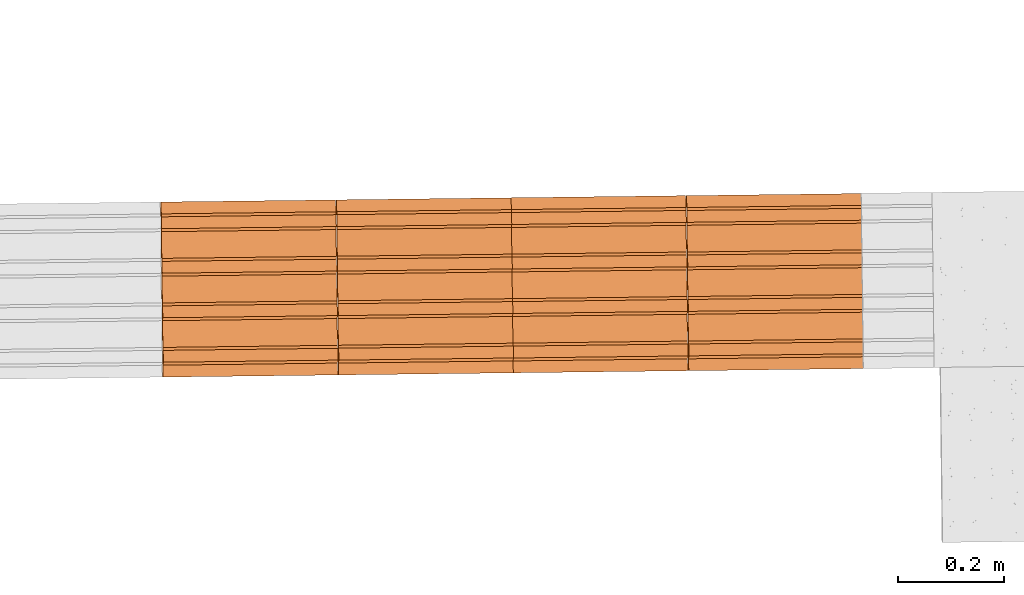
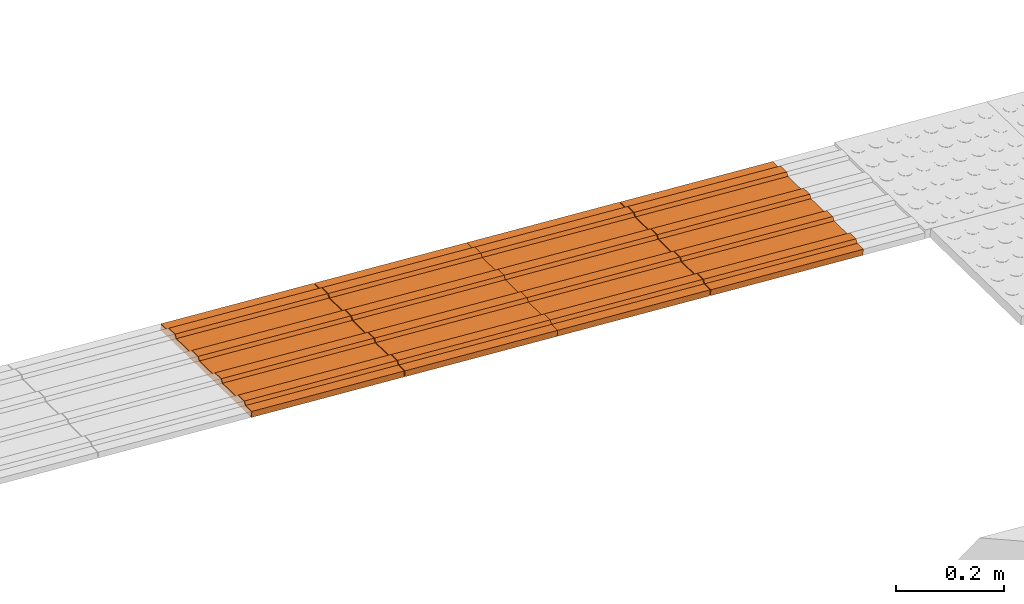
# One storey, part 202 of 237: 4 proxies.
"""IFC2X3 building model written with IfcOpenShell, lengths in millimetres."""

from ifc_helpers import new_model, entity, si_unit, converted_unit, derived_unit, money_unit, direction, frame, origin_with_axes, place, context, subcontext, project, spatial, open_shell, surface_model, source, transform, mapped, type_object, element, save


model = new_model("IFC2X3")

# Units and contexts
model_context = context("Model", 3, precision=0.01, world=origin_with_axes(), true_north=direction((0.0, 1.0)))
body_context = subcontext(model_context, "Body", "Model", "MODEL_VIEW")
ifc_project = project(units=[si_unit("LENGTHUNIT", "METRE", prefix="MILLI"), si_unit("AREAUNIT", "SQUARE_METRE"), si_unit("VOLUMEUNIT", "CUBIC_METRE"), converted_unit("PLANEANGLEUNIT", "DEGREE", entity("IfcPlaneAngleMeasure", 0.0174532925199), si_unit("PLANEANGLEUNIT", "RADIAN"), dimensions=[0, 0, 0, 0, 0, 0, 0]), money_unit("USD"), converted_unit("TIMEUNIT", "Year", entity("IfcTimeMeasure", 31556926.0), si_unit("TIMEUNIT", "SECOND"), dimensions=[0, 0, 1, 0, 0, 0, 0]), si_unit("MASSUNIT", "GRAM", prefix="KILO"), si_unit("THERMODYNAMICTEMPERATUREUNIT", "DEGREE_CELSIUS"), si_unit("LUMINOUSINTENSITYUNIT", "LUMEN"), si_unit("ENERGYUNIT", "JOULE", prefix="MEGA"), derived_unit("THERMALCONDUCTANCEUNIT", [(si_unit("POWERUNIT", "WATT"), 1), (si_unit("LENGTHUNIT", "METRE"), -1), (si_unit("THERMODYNAMICTEMPERATUREUNIT", "KELVIN"), -1)]), derived_unit("SPECIFICHEATCAPACITYUNIT", [(si_unit("ENERGYUNIT", "JOULE"), 1), (si_unit("MASSUNIT", "GRAM", prefix="KILO"), -1), (si_unit("THERMODYNAMICTEMPERATUREUNIT", "KELVIN"), -1)]), derived_unit("MASSDENSITYUNIT", [(si_unit("MASSUNIT", "GRAM", prefix="KILO"), 1), (si_unit("VOLUMEUNIT", "CUBIC_METRE"), -1)])], contexts=[model_context])

# Site, building, storey
site_placement = place(None, origin_with_axes())
site = spatial("IfcSite", under=ifc_project, at=site_placement, Name="Local", CompositionType="ELEMENT")
building_placement = place(site_placement, origin_with_axes())
building = spatial("IfcBuilding", under=site, at=building_placement, Name="Construção", CompositionType="ELEMENT")
storey_placement = place(building_placement, origin_with_axes())
storey = spatial("IfcBuildingStorey", under=building, at=storey_placement, Name="Pavimento Térreo", CompositionType="ELEMENT", Elevation=0.0)

# Proxies
building_element_proxy_type = type_object("IfcBuildingElementProxyType", Name="Piso Direcional 27", PredefinedType="NOTDEFINED")
shared_shape = source(origin_with_axes(), body_context, "Body", "SurfaceModel", [
    surface_model("IfcShellBasedSurfaceModel", [(-0.316074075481, -47.258225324, 4.01610191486), (328.666646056, -47.258225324, 29.907603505), (328.143585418, -41.665004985, 36.5537190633), (-0.839134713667, -41.665004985, 10.6622174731)], [open_shell([[[0, 1, 2, 3]]])]),
    surface_model("IfcShellBasedSurfaceModel", [(329.712767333, -153.529411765, 16.6153723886), (329.712767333, 176.470588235, 16.6153723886), (328.666646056, 176.470588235, 29.907603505), (328.666646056, 154.097706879, 29.907603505), (328.143585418, 148.50448654, 36.5537190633), (328.143585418, 126.131605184, 36.5537190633), (328.666646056, 120.538384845, 29.907603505), (328.666646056, 70.1994017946, 29.907603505), (328.143585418, 64.6061814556, 36.5537190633), (328.143585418, 42.2333000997, 36.5537190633), (328.666646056, 36.6400797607, 29.907603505), (328.666646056, -13.6989032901, 29.907603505), (328.143585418, -19.2921236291, 36.5537190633), (328.143585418, -41.665004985, 36.5537190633), (328.666646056, -47.258225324, 29.907603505), (328.666646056, -97.5972083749, 29.907603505), (328.143585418, -103.190428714, 36.5537190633), (328.143585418, -125.56331007, 36.5537190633), (328.666646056, -131.156530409, 29.907603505), (328.666646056, -153.529411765, 29.907603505)], [open_shell([[[0, 1, 2, 3, 4, 5, 6, 7, 8, 9, 10, 11, 12, 13, 14, 15, 16, 17, 18, 19]]])]),
    surface_model("IfcShellBasedSurfaceModel", [(-0.839134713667, -19.2921236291, 10.6622174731), (328.143585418, -19.2921236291, 36.5537190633), (328.666646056, -13.6989032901, 29.907603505), (-0.316074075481, -13.6989032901, 4.01610191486)], [open_shell([[[0, 1, 2, 3]]])]),
    surface_model("IfcShellBasedSurfaceModel", [(-0.839134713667, -103.190428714, 10.6622174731), (328.143585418, -103.190428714, 36.5537190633), (328.666646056, -97.5972083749, 29.907603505), (-0.316074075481, -97.5972083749, 4.01610191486)], [open_shell([[[0, 1, 2, 3]]])]),
    surface_model("IfcShellBasedSurfaceModel", [(-0.839134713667, 64.6061814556, 10.6622174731), (328.143585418, 64.6061814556, 36.5537190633), (328.666646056, 70.1994017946, 29.907603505), (-0.316074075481, 70.1994017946, 4.01610191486)], [open_shell([[[0, 1, 2, 3]]])]),
    surface_model("IfcShellBasedSurfaceModel", [(-0.316074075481, 36.6400797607, 4.01610191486), (328.666646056, 36.6400797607, 29.907603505), (328.143585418, 42.2333000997, 36.5537190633), (-0.839134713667, 42.2333000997, 10.6622174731)], [open_shell([[[0, 1, 2, 3]]])]),
    surface_model("IfcShellBasedSurfaceModel", [(-0.316074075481, -131.156530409, 4.01610191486), (328.666646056, -131.156530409, 29.907603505), (328.143585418, -125.56331007, 36.5537190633), (-0.839134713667, -125.56331007, 10.6622174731)], [open_shell([[[0, 1, 2, 3]]])]),
    surface_model("IfcShellBasedSurfaceModel", [(-0.316074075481, 176.470588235, 4.01610191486), (-0.316074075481, 154.097706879, 4.01610191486), (328.666646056, 154.097706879, 29.907603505), (328.666646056, 176.470588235, 29.907603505)], [open_shell([[[0, 1, 2, 3]]])]),
    surface_model("IfcShellBasedSurfaceModel", [(-0.316074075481, 120.538384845, 4.01610191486), (328.666646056, 120.538384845, 29.907603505), (328.143585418, 126.131605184, 36.5537190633), (-0.839134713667, 126.131605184, 10.6622174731)], [open_shell([[[0, 1, 2, 3]]])]),
    surface_model("IfcShellBasedSurfaceModel", [(-0.839134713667, 148.50448654, 10.6622174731), (328.143585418, 148.50448654, 36.5537190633), (328.666646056, 154.097706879, 29.907603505), (-0.316074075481, 154.097706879, 4.01610191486)], [open_shell([[[0, 1, 2, 3]]])]),
    surface_model("IfcShellBasedSurfaceModel", [(-0.316074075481, 36.6400797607, 4.01610191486), (-0.316074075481, -13.6989032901, 4.01610191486), (328.666646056, -13.6989032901, 29.907603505), (328.666646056, 36.6400797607, 29.907603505)], [open_shell([[[0, 1, 2, 3]]])]),
    surface_model("IfcShellBasedSurfaceModel", [(-0.316074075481, 120.538384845, 4.01610191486), (-0.316074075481, 70.1994017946, 4.01610191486), (328.666646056, 70.1994017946, 29.907603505), (328.666646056, 120.538384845, 29.907603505)], [open_shell([[[0, 1, 2, 3]]])]),
    surface_model("IfcShellBasedSurfaceModel", [(-0.839134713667, 148.50448654, 10.6622174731), (-0.839134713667, 126.131605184, 10.6622174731), (328.143585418, 126.131605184, 36.5537190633), (328.143585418, 148.50448654, 36.5537190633)], [open_shell([[[0, 1, 2, 3]]])]),
    surface_model("IfcShellBasedSurfaceModel", [(-0.316074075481, 120.538384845, 4.01610191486), (-0.839134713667, 126.131605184, 10.6622174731), (-0.839134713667, 148.50448654, 10.6622174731), (-0.316074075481, 154.097706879, 4.01610191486), (-0.316074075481, 176.470588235, 4.01610191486), (0.73004720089, 176.470588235, -9.27612920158), (0.73004720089, -153.529411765, -9.27612920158), (-0.316074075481, -153.529411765, 4.01610191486), (-0.316074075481, -131.156530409, 4.01610191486), (-0.839134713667, -125.56331007, 10.6622174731), (-0.839134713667, -103.190428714, 10.6622174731), (-0.316074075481, -97.5972083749, 4.01610191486), (-0.316074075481, -47.258225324, 4.01610191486), (-0.839134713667, -41.665004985, 10.6622174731), (-0.839134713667, -19.2921236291, 10.6622174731), (-0.316074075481, -13.6989032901, 4.01610191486), (-0.316074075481, 36.6400797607, 4.01610191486), (-0.839134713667, 42.2333000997, 10.6622174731), (-0.839134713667, 64.6061814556, 10.6622174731), (-0.316074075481, 70.1994017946, 4.01610191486)], [open_shell([[[0, 1, 2, 3, 4, 5, 6, 7, 8, 9, 10, 11, 12, 13, 14, 15, 16, 17, 18, 19]]])]),
    surface_model("IfcShellBasedSurfaceModel", [(328.143585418, -41.665004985, 36.5537190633), (328.143585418, -19.2921236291, 36.5537190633), (-0.839134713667, -19.2921236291, 10.6622174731), (-0.839134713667, -41.665004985, 10.6622174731)], [open_shell([[[0, 1, 2, 3]]])]),
    surface_model("IfcShellBasedSurfaceModel", [(-0.316074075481, -47.258225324, 4.01610191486), (-0.316074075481, -97.5972083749, 4.01610191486), (328.666646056, -97.5972083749, 29.907603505), (328.666646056, -47.258225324, 29.907603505)], [open_shell([[[0, 1, 2, 3]]])]),
    surface_model("IfcShellBasedSurfaceModel", [(328.143585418, 42.2333000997, 36.5537190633), (328.143585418, 64.6061814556, 36.5537190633), (-0.839134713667, 64.6061814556, 10.6622174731), (-0.839134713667, 42.2333000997, 10.6622174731)], [open_shell([[[0, 1, 2, 3]]])]),
    surface_model("IfcShellBasedSurfaceModel", [(328.143585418, -125.56331007, 36.5537190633), (328.143585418, -103.190428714, 36.5537190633), (-0.839134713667, -103.190428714, 10.6622174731), (-0.839134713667, -125.56331007, 10.6622174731)], [open_shell([[[0, 1, 2, 3]]])]),
    surface_model("IfcShellBasedSurfaceModel", [(329.712767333, 176.470588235, 16.6153723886), (0.73004720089, 176.470588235, -9.27612920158), (-0.316074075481, 176.470588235, 4.01610191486), (328.666646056, 176.470588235, 29.907603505)], [open_shell([[[0, 1, 2, 3]]])]),
    surface_model("IfcShellBasedSurfaceModel", [(329.712767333, -153.529411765, 16.6153723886), (0.73004720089, -153.529411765, -9.27612920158), (0.73004720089, 176.470588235, -9.27612920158), (329.712767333, 176.470588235, 16.6153723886)], [open_shell([[[0, 1, 2, 3]]])]),
    surface_model("IfcShellBasedSurfaceModel", [(328.666646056, -153.529411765, 29.907603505), (328.666646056, -131.156530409, 29.907603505), (-0.316074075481, -131.156530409, 4.01610191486), (-0.316074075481, -153.529411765, 4.01610191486)], [open_shell([[[0, 1, 2, 3]]])]),
    surface_model("IfcShellBasedSurfaceModel", [(0.73004720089, -153.529411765, -9.27612920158), (329.712767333, -153.529411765, 16.6153723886), (328.666646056, -153.529411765, 29.907603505), (-0.316074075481, -153.529411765, 4.01610191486)], [open_shell([[[0, 1, 2, 3]]])]),
])
for number, where, z_axis, x_axis, name in (
    (1, (122560.258271, 37535.1929972, -7121.41149526), (0.0, 0.0, 1.0), (-0.999926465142, -0.012127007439, 0.0), "Objeto-0055"),
    (2, (123219.954513, 37543.1937267, -7173.52977761), (0.0, 0.0, 1.0), (-0.999926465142, -0.012127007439, 0.0), "Objeto-0055"),
    (3, (122229.520557, 37531.1818435, -7095.18471449), (0.0, 0.0, 1.0), (-0.999926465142, -0.012127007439, 0.0), "Objeto-0055"),
    (4, (122889.2168, 37539.1825731, -7147.30299685), (0.0, 0.0, 1.0), (-0.999926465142, -0.012127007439, 0.0), "Objeto-0055"),
):
    element("IfcBuildingElementProxy", number, at=place(storey_placement, frame(where, z_axis=z_axis, x_axis=x_axis)), inside=storey, type_object=building_element_proxy_type, Name=name, context=body_context, shape_type="MappedRepresentation", body=[
        mapped(shared_shape, transform((0.0, 0.0, 0.0))),
    ])

save(model, "model.ifc")
